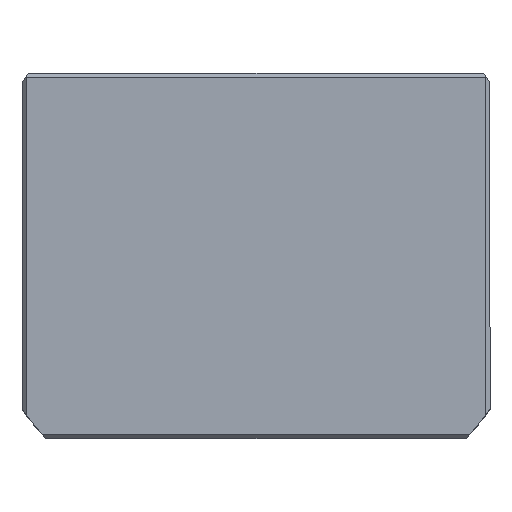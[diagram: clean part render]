
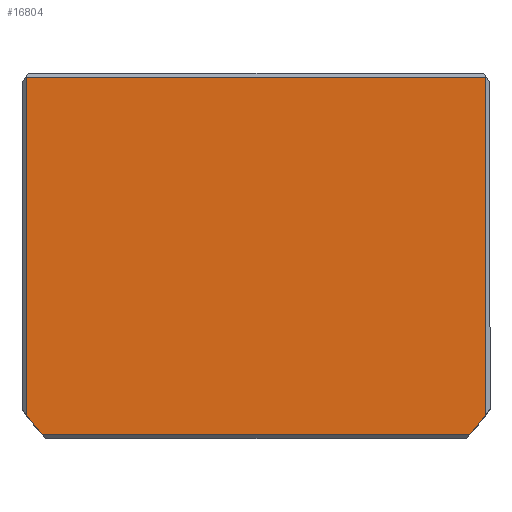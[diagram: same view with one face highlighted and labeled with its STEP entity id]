
A CAD part, top view. The second image highlights one B-rep face of the part: STEP entity #16804.
In plain terms, the highlighted planar face has unit normal (0, 0, 1) as drawn and (0, 0, -1) by its records, which use the part's own axes.
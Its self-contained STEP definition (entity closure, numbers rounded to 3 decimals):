
#691 = EDGE_CURVE ( 'NONE', #14863, #10477, #9240, .T. ) ;
#835 = ORIENTED_EDGE ( 'NONE', *, *, #12554, .T. ) ;
#1028 = DIRECTION ( 'NONE',  ( 0., 0., 1. ) ) ;
#1314 = DIRECTION ( 'NONE',  ( 1., 0., 0. ) ) ;
#1674 = EDGE_CURVE ( 'NONE', #13950, #4833, #2524, .T. ) ;
#2524 = LINE ( 'NONE', #3969, #2970 ) ;
#2647 = VERTEX_POINT ( 'NONE', #3699 ) ;
#2970 = VECTOR ( 'NONE', #9706, 1000. ) ;
#3143 = EDGE_LOOP ( 'NONE', ( #16309, #14333, #6966, #13716, #15415, #835 ) ) ;
#3317 = CARTESIAN_POINT ( 'NONE',  ( -56., 38.661, 0. ) ) ;
#3699 = CARTESIAN_POINT ( 'NONE',  ( 52.098, 43.5, 0. ) ) ;
#3969 = CARTESIAN_POINT ( 'NONE',  ( -56., 0., 0. ) ) ;
#4073 = DIRECTION ( 'NONE',  ( 0., -1., 0. ) ) ;
#4195 = EDGE_CURVE ( 'NONE', #10477, #13950, #14625, .T. ) ;
#4654 = DIRECTION ( 'NONE',  ( 0., 0., 1. ) ) ;
#4707 = EDGE_CURVE ( 'NONE', #14863, #2647, #12830, .T. ) ;
#4833 = VERTEX_POINT ( 'NONE', #3317 ) ;
#5387 = VECTOR ( 'NONE', #4073, 1000. ) ;
#6158 = CARTESIAN_POINT ( 'NONE',  ( 56., -43.5, 0. ) ) ;
#6962 = CARTESIAN_POINT ( 'NONE',  ( 56., 0., 0. ) ) ;
#6966 = ORIENTED_EDGE ( 'NONE', *, *, #4195, .T. ) ;
#6998 = CARTESIAN_POINT ( 'NONE',  ( 56., 38.661, 0. ) ) ;
#7096 = EDGE_CURVE ( 'NONE', #18565, #4833, #15492, .T. ) ;
#7123 = VECTOR ( 'NONE', #1314, 1000. ) ;
#7287 = CARTESIAN_POINT ( 'NONE',  ( 0., -2.5, 0. ) ) ;
#7817 = AXIS2_PLACEMENT_3D ( 'NONE', #13308, #4654, #14746 ) ;
#7870 = AXIS2_PLACEMENT_3D ( 'NONE', #9663, #1028, #11112 ) ;
#8747 = DIRECTION ( 'NONE',  ( 1., 0., 0. ) ) ;
#9240 = LINE ( 'NONE', #6962, #5387 ) ;
#9663 = CARTESIAN_POINT ( 'NONE',  ( 0., -2.5, 0. ) ) ;
#9706 = DIRECTION ( 'NONE',  ( 0., 1., 0. ) ) ;
#10477 = VERTEX_POINT ( 'NONE', #6158 ) ;
#10591 = DIRECTION ( 'NONE',  ( -1., 0., 0. ) ) ;
#11112 = DIRECTION ( 'NONE',  ( 1., 0., 0. ) ) ;
#11257 = VECTOR ( 'NONE', #10591, 1000. ) ;
#11502 = AXIS2_PLACEMENT_3D ( 'NONE', #7287, #17379, #8747 ) ;
#12197 = CARTESIAN_POINT ( 'NONE',  ( -52.098, 43.5, 0. ) ) ;
#12554 = EDGE_CURVE ( 'NONE', #18565, #2647, #18647, .T. ) ;
#12830 = CIRCLE ( 'NONE', #11502, 69.5 ) ;
#13308 = CARTESIAN_POINT ( 'NONE',  ( 0., 0., 0. ) ) ;
#13716 = ORIENTED_EDGE ( 'NONE', *, *, #1674, .T. ) ;
#13950 = VERTEX_POINT ( 'NONE', #18118 ) ;
#14333 = ORIENTED_EDGE ( 'NONE', *, *, #691, .T. ) ;
#14625 = LINE ( 'NONE', #17715, #11257 ) ;
#14746 = DIRECTION ( 'NONE',  ( 1., 0., 0. ) ) ;
#14863 = VERTEX_POINT ( 'NONE', #6998 ) ;
#15415 = ORIENTED_EDGE ( 'NONE', *, *, #7096, .F. ) ;
#15492 = CIRCLE ( 'NONE', #7870, 69.5 ) ;
#16131 = PLANE ( 'NONE',  #7817 ) ;
#16309 = ORIENTED_EDGE ( 'NONE', *, *, #4707, .F. ) ;
#16804 = ADVANCED_FACE ( 'NONE', ( #18510 ), #16131, .F. ) ;
#17379 = DIRECTION ( 'NONE',  ( 0., 0., 1. ) ) ;
#17715 = CARTESIAN_POINT ( 'NONE',  ( 0., -43.5, 0. ) ) ;
#18118 = CARTESIAN_POINT ( 'NONE',  ( -56., -43.5, 0. ) ) ;
#18510 = FACE_OUTER_BOUND ( 'NONE', #3143, .T. ) ;
#18565 = VERTEX_POINT ( 'NONE', #12197 ) ;
#18589 = CARTESIAN_POINT ( 'NONE',  ( 0., 43.5, 0. ) ) ;
#18647 = LINE ( 'NONE', #18589, #7123 ) ;
